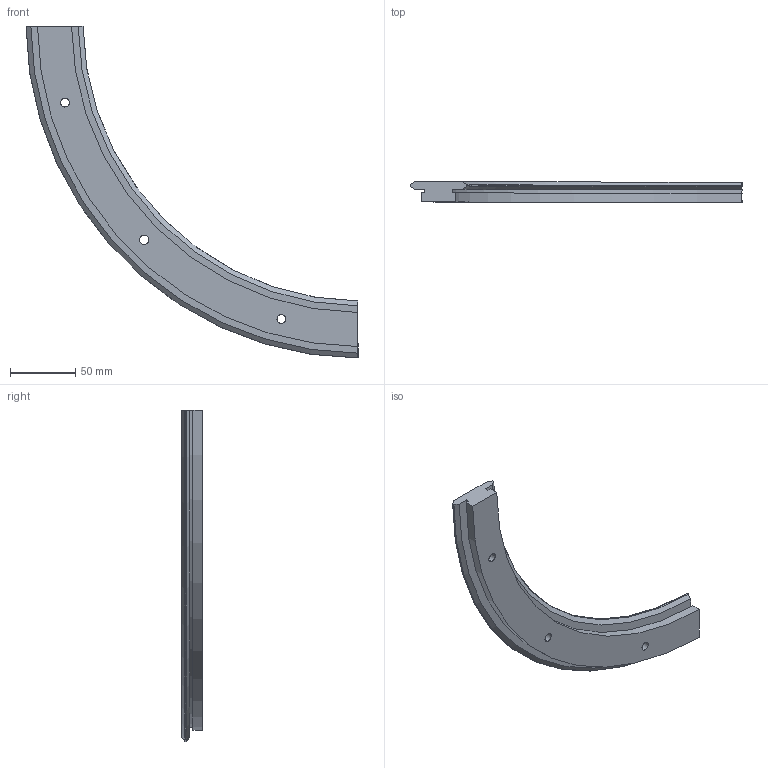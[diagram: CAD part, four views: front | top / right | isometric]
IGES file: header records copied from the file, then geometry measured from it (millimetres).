
Start section: 3D InterOp IGES (v. 2018 1.0.2), Spatial Corp. Copyright (c) 1999-2017.
Global section: file name: r44_468_r90.igs; native system: Spatial Corp.; preprocessor: 3D InterOp ACIS/IGES; author: TraceParts; organization: TraceParts S.A.; date: 20200714.122035; units: millimetre
Bounding box: 253.8 x 15.5 x 253.8 mm (x, y, z)
Surface area: 46083.8 mm2 (no closed solid volume)
Topology: 0 solids, 0 shells, 35 faces, 180 edges, 180 vertices
Faces by surface type: revolution 24, extrusion 11
